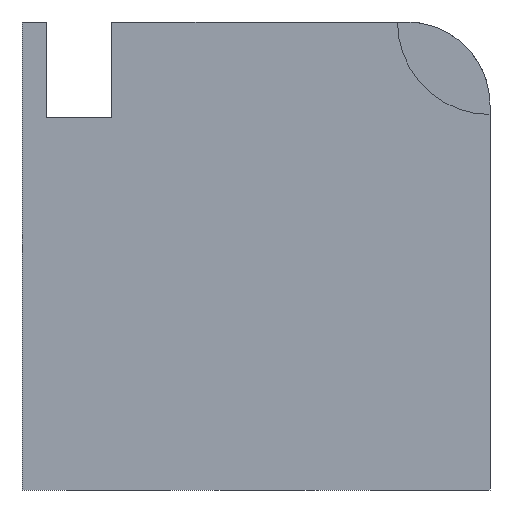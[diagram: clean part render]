
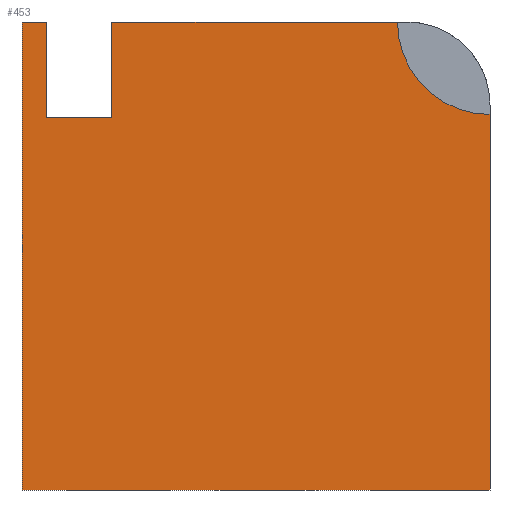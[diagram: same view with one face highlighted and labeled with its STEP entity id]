
A CAD part, front view. The second image highlights one B-rep face of the part: STEP entity #453.
In plain terms, the highlighted planar face has unit normal (0, -1, 0).
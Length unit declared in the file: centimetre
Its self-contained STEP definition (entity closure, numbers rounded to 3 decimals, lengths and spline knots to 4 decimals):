
#18 = VECTOR ( 'NONE', #1575, 100. ) ;
#20 = LINE ( 'NONE', #307, #500 ) ;
#31 = EDGE_CURVE ( 'NONE', #1316, #1038, #20, .T. ) ;
#37 = VERTEX_POINT ( 'NONE', #1354 ) ;
#63 = VERTEX_POINT ( 'NONE', #690 ) ;
#73 = ORIENTED_EDGE ( 'NONE', *, *, #199, .T. ) ;
#90 = FACE_OUTER_BOUND ( 'NONE', #1095, .T. ) ;
#101 = DIRECTION ( 'NONE',  ( 0., 0., -1. ) ) ;
#105 = VECTOR ( 'NONE', #1121, 100. ) ;
#126 = VERTEX_POINT ( 'NONE', #1132 ) ;
#144 = VECTOR ( 'NONE', #691, 100. ) ;
#149 = CARTESIAN_POINT ( 'NONE',  ( 0., 0., 1000. ) ) ;
#199 = EDGE_CURVE ( 'NONE', #37, #1306, #882, .T. ) ;
#239 = CARTESIAN_POINT ( 'NONE',  ( 191.8464, 0., 1000. ) ) ;
#296 = CARTESIAN_POINT ( 'NONE',  ( 52.8562, 0., 794.8917 ) ) ;
#307 = CARTESIAN_POINT ( 'NONE',  ( 0., 0., 1000. ) ) ;
#323 = CARTESIAN_POINT ( 'NONE',  ( 52.8562, 0., 1000. ) ) ;
#355 = EDGE_CURVE ( 'NONE', #628, #63, #770, .T. ) ;
#403 = CARTESIAN_POINT ( 'NONE',  ( 0., 0., 1000. ) ) ;
#430 = LINE ( 'NONE', #296, #105 ) ;
#435 = VECTOR ( 'NONE', #1475, 100. ) ;
#453 = ADVANCED_FACE ( 'NONE', ( #90 ), #1200, .F. ) ;
#477 = EDGE_CURVE ( 'NONE', #126, #545, #430, .T. ) ;
#500 = VECTOR ( 'NONE', #1231, 100. ) ;
#501 = CARTESIAN_POINT ( 'NONE',  ( 1000., 0., 1000. ) ) ;
#520 = DIRECTION ( 'NONE',  ( 0., 0., 1. ) ) ;
#535 = AXIS2_PLACEMENT_3D ( 'NONE', #1074, #1724, #101 ) ;
#545 = VERTEX_POINT ( 'NONE', #1616 ) ;
#594 = EDGE_CURVE ( 'NONE', #628, #126, #1053, .T. ) ;
#613 = EDGE_CURVE ( 'NONE', #734, #1306, #1190, .T. ) ;
#628 = VERTEX_POINT ( 'NONE', #239 ) ;
#668 = CARTESIAN_POINT ( 'NONE',  ( 1000., 0., 802.398 ) ) ;
#690 = CARTESIAN_POINT ( 'NONE',  ( 802.398, 0., 1000. ) ) ;
#691 = DIRECTION ( 'NONE',  ( 0., 0., 1. ) ) ;
#695 = ORIENTED_EDGE ( 'NONE', *, *, #477, .T. ) ;
#712 = ORIENTED_EDGE ( 'NONE', *, *, #613, .F. ) ;
#720 = CARTESIAN_POINT ( 'NONE',  ( 52.8562, 0., 794.8917 ) ) ;
#727 = LINE ( 'NONE', #720, #144 ) ;
#734 = VERTEX_POINT ( 'NONE', #668 ) ;
#761 = ORIENTED_EDGE ( 'NONE', *, *, #890, .T. ) ;
#763 = DIRECTION ( 'NONE',  ( 0., 0., -1. ) ) ;
#770 = LINE ( 'NONE', #928, #435 ) ;
#805 = ORIENTED_EDGE ( 'NONE', *, *, #594, .T. ) ;
#830 = EDGE_CURVE ( 'NONE', #1316, #37, #1515, .T. ) ;
#861 = CIRCLE ( 'NONE', #535, 197.602 ) ;
#882 = LINE ( 'NONE', #1161, #1536 ) ;
#890 = EDGE_CURVE ( 'NONE', #545, #1038, #727, .T. ) ;
#927 = CARTESIAN_POINT ( 'NONE',  ( 191.8464, 0., 794.8917 ) ) ;
#928 = CARTESIAN_POINT ( 'NONE',  ( 0., 0., 1000. ) ) ;
#1038 = VERTEX_POINT ( 'NONE', #323 ) ;
#1053 = LINE ( 'NONE', #927, #1064 ) ;
#1064 = VECTOR ( 'NONE', #763, 100. ) ;
#1074 = CARTESIAN_POINT ( 'NONE',  ( 1000., 0., 1000. ) ) ;
#1094 = EDGE_CURVE ( 'NONE', #63, #734, #861, .T. ) ;
#1095 = EDGE_LOOP ( 'NONE', ( #695, #761, #1751, #1186, #73, #712, #1105, #1708, #805 ) ) ;
#1105 = ORIENTED_EDGE ( 'NONE', *, *, #1094, .F. ) ;
#1112 = CARTESIAN_POINT ( 'NONE',  ( 0., 0., 1000. ) ) ;
#1121 = DIRECTION ( 'NONE',  ( -1., 0., 0. ) ) ;
#1132 = CARTESIAN_POINT ( 'NONE',  ( 191.8464, 0., 794.8917 ) ) ;
#1161 = CARTESIAN_POINT ( 'NONE',  ( 0., 0., 0. ) ) ;
#1186 = ORIENTED_EDGE ( 'NONE', *, *, #830, .T. ) ;
#1190 = LINE ( 'NONE', #501, #18 ) ;
#1200 = PLANE ( 'NONE',  #1210 ) ;
#1210 = AXIS2_PLACEMENT_3D ( 'NONE', #403, #1723, #520 ) ;
#1231 = DIRECTION ( 'NONE',  ( 1., 0., 0. ) ) ;
#1306 = VERTEX_POINT ( 'NONE', #1758 ) ;
#1316 = VERTEX_POINT ( 'NONE', #149 ) ;
#1354 = CARTESIAN_POINT ( 'NONE',  ( 0., 0., 0. ) ) ;
#1412 = DIRECTION ( 'NONE',  ( 1., 0., 0. ) ) ;
#1475 = DIRECTION ( 'NONE',  ( 1., 0., 0. ) ) ;
#1515 = LINE ( 'NONE', #1112, #1705 ) ;
#1536 = VECTOR ( 'NONE', #1412, 100. ) ;
#1575 = DIRECTION ( 'NONE',  ( 0., 0., -1. ) ) ;
#1616 = CARTESIAN_POINT ( 'NONE',  ( 52.8562, 0., 794.8917 ) ) ;
#1619 = DIRECTION ( 'NONE',  ( 0., 0., -1. ) ) ;
#1705 = VECTOR ( 'NONE', #1619, 100. ) ;
#1708 = ORIENTED_EDGE ( 'NONE', *, *, #355, .F. ) ;
#1723 = DIRECTION ( 'NONE',  ( 0., 1., 0. ) ) ;
#1724 = DIRECTION ( 'NONE',  ( 0., -1., 0. ) ) ;
#1751 = ORIENTED_EDGE ( 'NONE', *, *, #31, .F. ) ;
#1758 = CARTESIAN_POINT ( 'NONE',  ( 1000., 0., 0. ) ) ;
